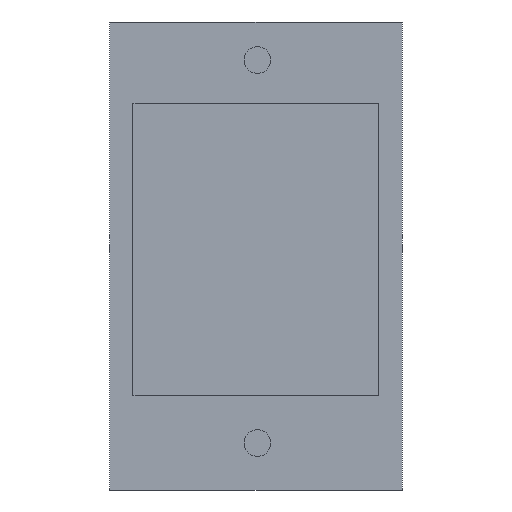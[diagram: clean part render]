
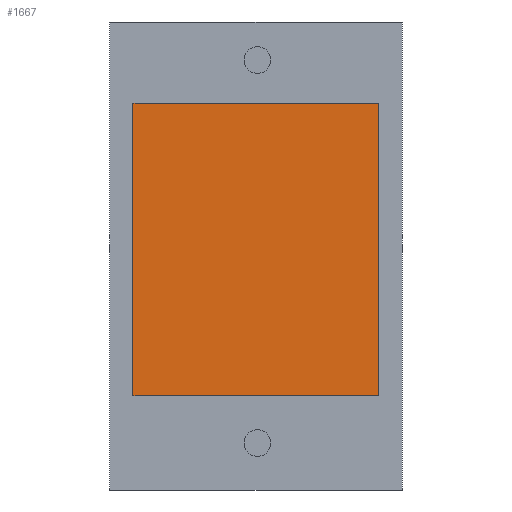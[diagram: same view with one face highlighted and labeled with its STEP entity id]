
A CAD part, front view. The second image highlights one B-rep face of the part: STEP entity #1667.
In plain terms, the highlighted planar face has unit normal (0, -1, 0).
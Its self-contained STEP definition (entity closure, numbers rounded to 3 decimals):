
#264=FACE_OUTER_BOUND('',#360,.T.);
#360=EDGE_LOOP('',(#1493,#1494,#1495,#1496));
#491=LINE('',#3267,#630);
#495=LINE('',#3274,#634);
#498=LINE('',#3280,#637);
#500=LINE('',#3283,#639);
#630=VECTOR('',#1928,10.);
#634=VECTOR('',#1934,10.);
#637=VECTOR('',#1939,10.);
#639=VECTOR('',#1943,10.);
#800=VERTEX_POINT('',#3264);
#801=VERTEX_POINT('',#3266);
#803=VERTEX_POINT('',#3272);
#805=VERTEX_POINT('',#3278);
#1033=EDGE_CURVE('',#800,#801,#491,.T.);
#1037=EDGE_CURVE('',#803,#800,#495,.T.);
#1040=EDGE_CURVE('',#805,#803,#498,.T.);
#1042=EDGE_CURVE('',#801,#805,#500,.T.);
#1493=ORIENTED_EDGE('',*,*,#1042,.F.);
#1494=ORIENTED_EDGE('',*,*,#1033,.F.);
#1495=ORIENTED_EDGE('',*,*,#1037,.F.);
#1496=ORIENTED_EDGE('',*,*,#1040,.F.);
#1579=PLANE('',#1728);
#1667=ADVANCED_FACE('',(#264),#1579,.F.);
#1728=AXIS2_PLACEMENT_3D('',#3284,#1944,#1945);
#1928=DIRECTION('',(0.,0.,-1.));
#1934=DIRECTION('',(1.,0.,0.));
#1939=DIRECTION('',(0.,0.,1.));
#1943=DIRECTION('',(-1.,0.,0.));
#1944=DIRECTION('center_axis',(0.,1.,0.));
#1945=DIRECTION('ref_axis',(0.,0.,1.));
#3264=CARTESIAN_POINT('',(10.494,5.,13.206));
#3266=CARTESIAN_POINT('',(10.494,5.,-11.794));
#3267=CARTESIAN_POINT('',(10.494,5.,13.206));
#3272=CARTESIAN_POINT('',(-10.506,5.,13.206));
#3274=CARTESIAN_POINT('',(-10.506,5.,13.206));
#3278=CARTESIAN_POINT('',(-10.506,5.,-11.794));
#3280=CARTESIAN_POINT('',(-10.506,5.,-11.794));
#3283=CARTESIAN_POINT('',(10.494,5.,-11.794));
#3284=CARTESIAN_POINT('Origin',(-0.006,5.,0.706));
